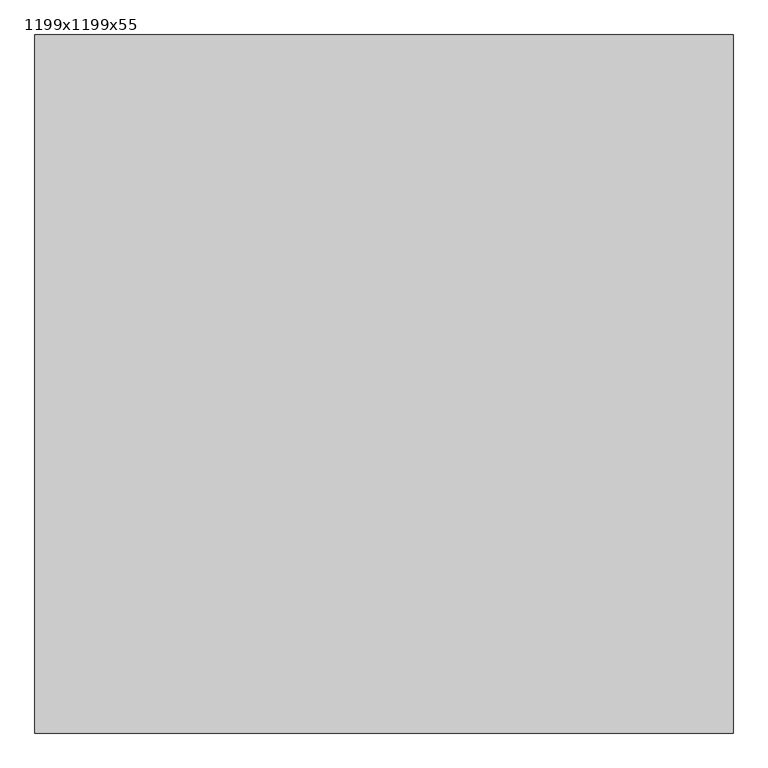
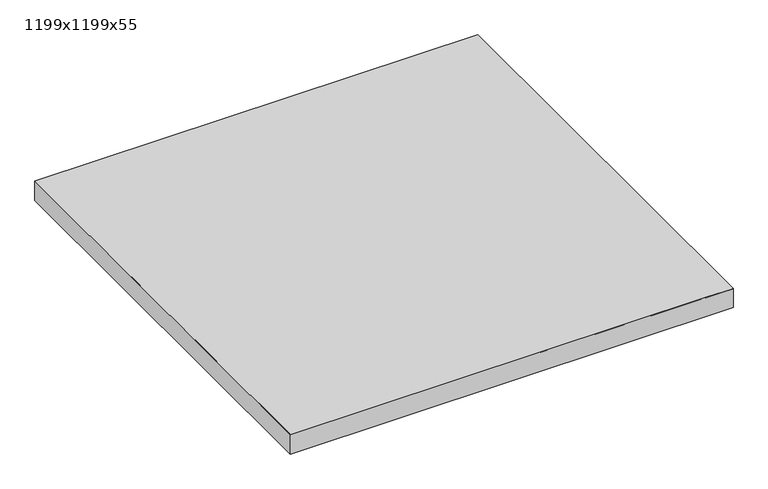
"""IFC4 building model written with IfcOpenShell, lengths in millimetres: proxy geometry, Texaa Panneaux Stereo fixés contre support par système magnétique séparés ou groupés au mur : 1199x1199x55."""

from ifc_helpers import new_model, si_unit, frame, origin, place, context, project, spatial, polyline, outline, extrude, faceted_brep, source, transform, mapped, element, save


def proxy_1199x1199x55_f27266c2(model_context):
    return source(origin(), model_context, "Body", "SolidModel", [
        extrude(outline(polyline([(-598.5, 598.5), (598.5, 598.5), (598.5, -598.5), (-598.5, -598.5), (-598.5, 598.5)])), frame((0.0, 0.0, 11.0), z_axis=(0.0, 0.0, 1.0), x_axis=(1.0, 0.0, 0.0)), (0.0, 0.0, 1.0), 53.0),
        faceted_brep([(599.5, -599.5, 65.0), (599.5, 599.5, 65.0), (-599.5, 599.5, 65.0), (-599.5, 598.0857864, 65.0), (-599.5, 596.6715729, 65.0), (-599.5, 528.7893219, 65.0), (-599.5, -599.5, 65.0), (528.7893219, -599.5, 65.0), (596.6715729, -599.5, 65.0), (598.0857864, -599.5, 65.0), (-599.5, 599.5, 10.0), (599.5, 599.5, 10.0), (599.5, -599.5, 10.0), (-599.5, -599.5, 10.0), (-549.5, -549.5, 10.0), (549.5, -549.5, 10.0), (549.5, 549.5, 10.0), (-549.5, 549.5, 10.0), (-599.5, 599.5, 64.0), (599.5, -599.5, 64.0), (-549.5, -549.5, 11.0), (549.5, -549.5, 11.0), (549.5, 549.5, 11.0), (-549.5, 549.5, 11.0), (-598.5, 598.5, 64.0), (598.5, 598.5, 64.0), (598.5, -598.5, 64.0), (597.0857864, -598.5, 64.0), (595.6715729, -598.5, 64.0), (527.7893219, -598.5, 64.0), (-598.5, -598.5, 64.0), (-598.5, 527.7893219, 64.0), (-598.5, 595.6715729, 64.0), (-598.5, 597.0857864, 64.0), (-598.5, 598.5, 11.0), (-598.5, -598.5, 11.0), (598.5, -598.5, 11.0), (598.5, 598.5, 11.0)], [[[0, 1, 2, 3, 4, 5, 6, 7, 8, 9]], [[10, 11, 12, 13], [14, 15, 16, 17]], [[10, 13, 6, 5, 4, 3, 2, 18]], [[13, 12, 19, 0, 9, 8, 7, 6]], [[1, 0, 19, 12, 11]], [[2, 1, 11, 10, 18]], [[14, 20, 21, 15]], [[15, 21, 22, 16]], [[16, 22, 23, 17]], [[20, 14, 17, 23]], [[24, 25, 26, 27, 28, 29, 30, 31, 32, 33]], [[34, 35, 36, 37], [21, 20, 23, 22]], [[35, 34, 24, 33, 32, 31, 30]], [[36, 35, 30, 29, 28, 27, 26]], [[26, 25, 37, 36]], [[25, 24, 34, 37]]]),
    ])


if __name__ == "__main__":
    model = new_model("IFC4")
    model_context = context("Model", 3, world=origin())
    ifc_project = project(units=[si_unit("LENGTHUNIT", "METRE", prefix="MILLI")], contexts=[model_context])
    site = spatial("IfcSite", under=ifc_project)
    building = spatial("IfcBuilding", under=site)
    placement = place(None, origin())
    proxy_1199x1199x55_shape = proxy_1199x1199x55_f27266c2(model_context)
    element("IfcBuildingElementProxy", 1, Name="Texaa Panneaux Stereo fixés contre support par système magnétique séparés ou groupés au mur : 1199x1199x55", ObjectType="Texaa Panneaux Stereo fixés contre support par système magnétique séparés ou groupés au mur : 1199x1199x55", at=placement, inside=building, context=model_context, shape_type="MappedRepresentation", body=[
        mapped(proxy_1199x1199x55_shape, transform((0.0, 0.0, 0.0), x_axis=(1.0, 0.0, 0.0), y_axis=(0.0, 1.0, 0.0), z_axis=(0.0, 0.0, 1.0))),
    ])
    save(model, "model.ifc")
